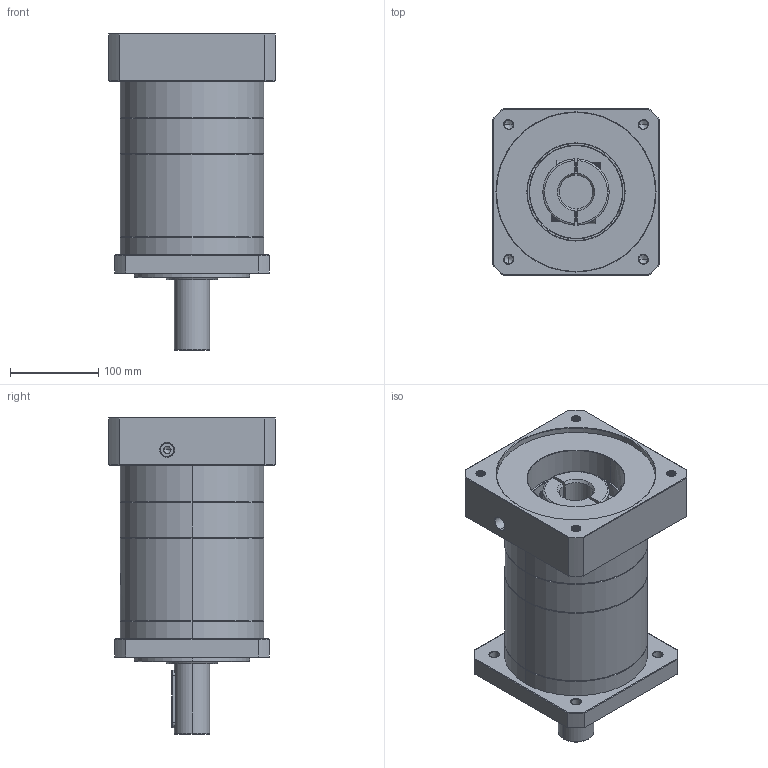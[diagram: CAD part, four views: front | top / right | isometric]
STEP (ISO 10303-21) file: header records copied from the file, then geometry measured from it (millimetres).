
FILE_DESCRIPTION (( 'STEP AP214' ), '1' );
FILE_NAME ('ZF160A-D40-L3-P2-38-180-215-M12.step', '2023-09-03T07:00:37', ( '' ), ( '' ), 'SwSTEP 2.0', 'SolidWorks 2016', '' );
FILE_SCHEMA (( 'AUTOMOTIVE_DESIGN' ));
Length unit declared in the file: millimetre
Products named in the file (1): ZF160A-D40-L3-P2-38-180-215-M12
Bounding box: 188 x 188 x 358.2 mm (x, y, z)
Volume: 6125981 mm3; surface area: 396577 mm2
Topology: 6 solids, 6 shells, 2193 faces, 5928 edges, 3840 vertices
Faces by surface type: plane 1017, cylinder 413, bspline 411, cone 330, torus 22
Entity records: 125932 total; most frequent: CARTESIAN_POINT 51751, ORIENTED_EDGE 11796, DIRECTION 8642, EDGE_CURVE 5898, VERTEX_POINT 3840, LINE 3060, VECTOR 3060, AXIS2_PLACEMENT_3D 2791
